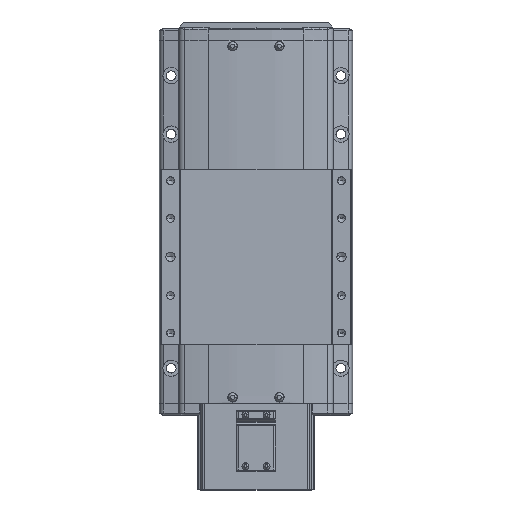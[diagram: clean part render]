
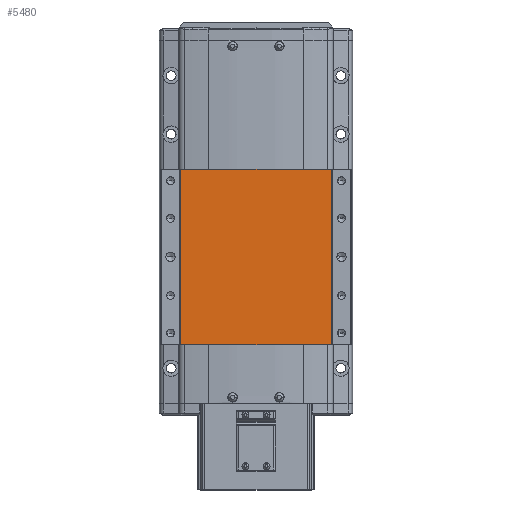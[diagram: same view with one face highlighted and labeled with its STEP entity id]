
A CAD part, top view. The second image highlights one B-rep face of the part: STEP entity #5480.
In plain terms, the highlighted planar face has unit normal (0, 0, 1).
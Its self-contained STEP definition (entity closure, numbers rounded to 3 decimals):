
#5480=ADVANCED_FACE('',(#12601),#12602,.F.);
#12601=FACE_OUTER_BOUND('',#23352,.T.);
#12602=PLANE('',#23353);
#23352=EDGE_LOOP('',(#39857,#39858,#39859,#39860));
#23353=AXIS2_PLACEMENT_3D('',#39861,#39862,#39863);
#39857=ORIENTED_EDGE('',*,*,#57584,.F.);
#39858=ORIENTED_EDGE('',*,*,#56934,.F.);
#39859=ORIENTED_EDGE('',*,*,#62137,.F.);
#39860=ORIENTED_EDGE('',*,*,#62138,.T.);
#39861=CARTESIAN_POINT('',(-600.,347.222,51.5));
#39862=DIRECTION('',(0.,0.,-1.0));
#39863=DIRECTION('',(-1.0,0.,0.));
#56934=EDGE_CURVE('',#67312,#67308,#67314,.T.);
#57584=EDGE_CURVE('',#67308,#68505,#68506,.T.);
#62137=EDGE_CURVE('',#75990,#67312,#75991,.T.);
#62138=EDGE_CURVE('',#75990,#68505,#75992,.T.);
#67308=VERTEX_POINT('',#82554);
#67312=VERTEX_POINT('',#82559);
#67314=LINE('',#82561,#82562);
#68505=VERTEX_POINT('',#84133);
#68506=LINE('',#84134,#84135);
#75990=VERTEX_POINT('',#95152);
#75991=LINE('',#95153,#95154);
#75992=LINE('',#95155,#95156);
#82554=CARTESIAN_POINT('',(-664.376,497.222,51.5));
#82559=CARTESIAN_POINT('',(-664.376,347.222,51.5));
#82561=CARTESIAN_POINT('',(-664.376,347.222,51.5));
#82562=VECTOR('',#104205,10.0);
#84133=CARTESIAN_POINT('',(-535.624,497.222,51.5));
#84134=CARTESIAN_POINT('',(-535.624,497.222,51.5));
#84135=VECTOR('',#105288,10.0);
#95152=CARTESIAN_POINT('',(-535.624,347.222,51.5));
#95153=CARTESIAN_POINT('',(-535.624,347.222,51.5));
#95154=VECTOR('',#111627,10.0);
#95155=CARTESIAN_POINT('',(-535.624,347.222,51.5));
#95156=VECTOR('',#111628,10.0);
#104205=DIRECTION('',(0.,1.0,0.));
#105288=DIRECTION('',(1.0,0.,0.));
#111627=DIRECTION('',(-1.0,0.,0.));
#111628=DIRECTION('',(0.,1.0,0.));
